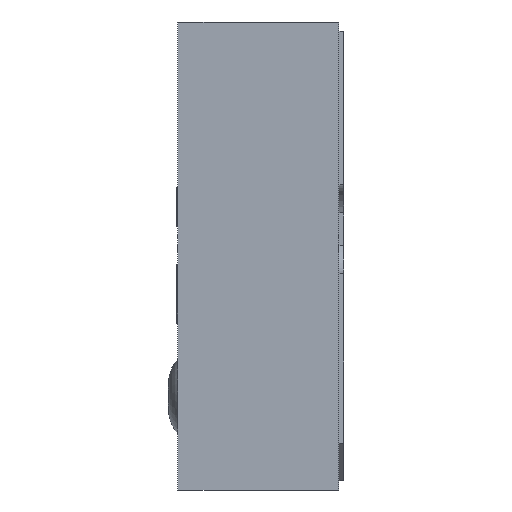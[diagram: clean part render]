
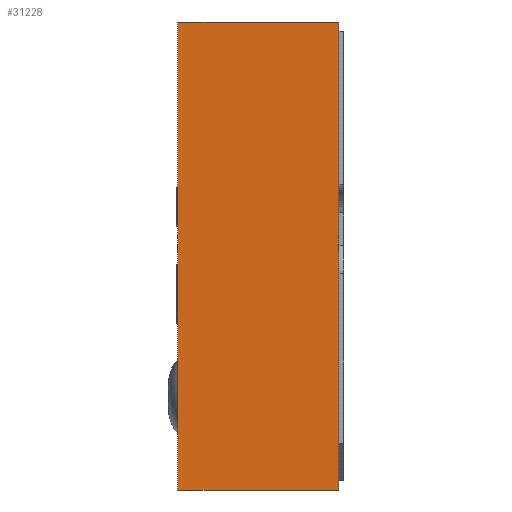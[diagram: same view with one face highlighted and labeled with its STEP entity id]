
A CAD part, left-side view. The second image highlights one B-rep face of the part: STEP entity #31228.
In plain terms, the highlighted planar face has unit normal (-1, 0, 0).
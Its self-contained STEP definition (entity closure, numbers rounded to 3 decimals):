
#360 = EDGE_CURVE ( 'NONE', #4197, #20073, #15991, .T. ) ;
#508 = VECTOR ( 'NONE', #31044, 1000. ) ;
#742 = CARTESIAN_POINT ( 'NONE',  ( 0., 1.72, -5. ) ) ;
#815 = CARTESIAN_POINT ( 'NONE',  ( 0., 0., 0. ) ) ;
#1388 = DIRECTION ( 'NONE',  ( 0., 0., 1. ) ) ;
#4197 = VERTEX_POINT ( 'NONE', #11955 ) ;
#5865 = VECTOR ( 'NONE', #17605, 1000. ) ;
#6188 = LINE ( 'NONE', #742, #18545 ) ;
#7403 = EDGE_LOOP ( 'NONE', ( #20888, #14907, #29186, #8052 ) ) ;
#7498 = CARTESIAN_POINT ( 'NONE',  ( 0., 1.72, -5. ) ) ;
#7698 = CARTESIAN_POINT ( 'NONE',  ( 0., 0., -5. ) ) ;
#8052 = ORIENTED_EDGE ( 'NONE', *, *, #22845, .T. ) ;
#9708 = CARTESIAN_POINT ( 'NONE',  ( 0., 1.72, -5. ) ) ;
#11955 = CARTESIAN_POINT ( 'NONE',  ( 0., 0., -5. ) ) ;
#12514 = LINE ( 'NONE', #23097, #14365 ) ;
#12524 = DIRECTION ( 'NONE',  ( 1., 0., 0. ) ) ;
#12850 = DIRECTION ( 'NONE',  ( 0., -1., 0. ) ) ;
#14365 = VECTOR ( 'NONE', #12850, 1000. ) ;
#14557 = VERTEX_POINT ( 'NONE', #31409 ) ;
#14907 = ORIENTED_EDGE ( 'NONE', *, *, #23524, .F. ) ;
#15991 = LINE ( 'NONE', #7698, #508 ) ;
#16342 = VERTEX_POINT ( 'NONE', #26363 ) ;
#17017 = DIRECTION ( 'NONE',  ( 0., 0., -1. ) ) ;
#17605 = DIRECTION ( 'NONE',  ( 0., -1., 0. ) ) ;
#18545 = VECTOR ( 'NONE', #1388, 1000. ) ;
#20073 = VERTEX_POINT ( 'NONE', #815 ) ;
#20888 = ORIENTED_EDGE ( 'NONE', *, *, #360, .T. ) ;
#21817 = FACE_OUTER_BOUND ( 'NONE', #7403, .T. ) ;
#22583 = EDGE_CURVE ( 'NONE', #16342, #14557, #6188, .T. ) ;
#22845 = EDGE_CURVE ( 'NONE', #16342, #4197, #30184, .T. ) ;
#23097 = CARTESIAN_POINT ( 'NONE',  ( 0., 1.72, 0. ) ) ;
#23524 = EDGE_CURVE ( 'NONE', #14557, #20073, #12514, .T. ) ;
#26363 = CARTESIAN_POINT ( 'NONE',  ( 0., 1.72, -5. ) ) ;
#28556 = AXIS2_PLACEMENT_3D ( 'NONE', #9708, #12524, #17017 ) ;
#29186 = ORIENTED_EDGE ( 'NONE', *, *, #22583, .F. ) ;
#30184 = LINE ( 'NONE', #7498, #5865 ) ;
#31044 = DIRECTION ( 'NONE',  ( 0., 0., 1. ) ) ;
#31228 = ADVANCED_FACE ( 'NONE', ( #21817 ), #31912, .F. ) ;
#31409 = CARTESIAN_POINT ( 'NONE',  ( 0., 1.72, 0. ) ) ;
#31912 = PLANE ( 'NONE',  #28556 ) ;
